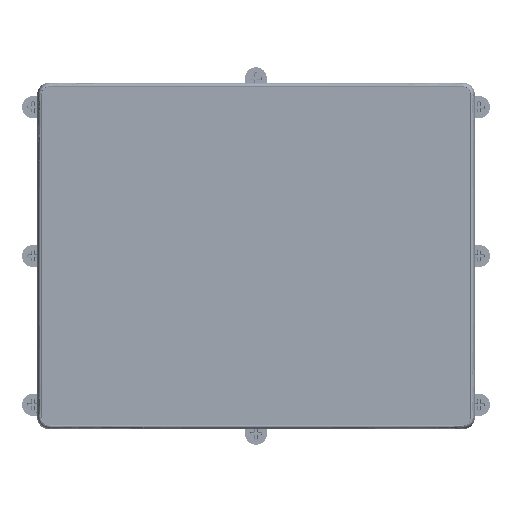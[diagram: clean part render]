
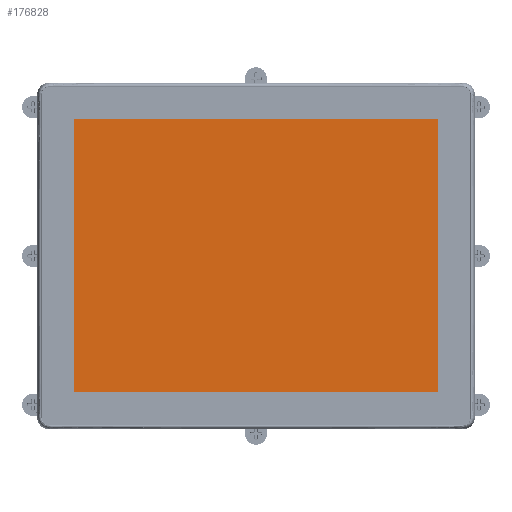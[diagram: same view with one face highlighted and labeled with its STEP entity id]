
A CAD part, top view. The second image highlights one B-rep face of the part: STEP entity #176828.
In plain terms, the highlighted planar face has unit normal (0, 0, 1).
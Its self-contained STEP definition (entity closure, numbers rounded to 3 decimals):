
#55858=DIRECTION('',(0.,-1.,0.));
#55859=VECTOR('',#55858,185.32);
#55860=CARTESIAN_POINT('',(-123.38,92.66,4.79));
#55861=LINE('',#55860,#55859);
#55878=DIRECTION('',(-1.,0.,0.));
#55879=VECTOR('',#55878,246.76);
#55880=CARTESIAN_POINT('',(123.38,92.66,4.79));
#55881=LINE('',#55880,#55879);
#55886=DIRECTION('',(0.,1.,0.));
#55887=VECTOR('',#55886,185.32);
#55888=CARTESIAN_POINT('',(123.38,-92.66,4.79));
#55889=LINE('',#55888,#55887);
#55898=DIRECTION('',(1.,0.,0.));
#55899=VECTOR('',#55898,246.76);
#55900=CARTESIAN_POINT('',(-123.38,-92.66,4.79));
#55901=LINE('',#55900,#55899);
#58549=CARTESIAN_POINT('',(-123.38,92.66,4.79));
#58551=VERTEX_POINT('',#58549);
#58554=CARTESIAN_POINT('',(-123.38,-92.66,4.79));
#58556=VERTEX_POINT('',#58554);
#58558=CARTESIAN_POINT('',(123.38,-92.66,4.79));
#58560=VERTEX_POINT('',#58558);
#58562=CARTESIAN_POINT('',(123.38,92.66,4.79));
#58564=VERTEX_POINT('',#58562);
#176817=CARTESIAN_POINT('',(0.,0.,4.79));
#176818=DIRECTION('',(0.,0.,1.));
#176819=DIRECTION('',(1.,0.,0.));
#176820=AXIS2_PLACEMENT_3D('',#176817,#176818,#176819);
#176821=PLANE('',#176820);
#176822=ORIENTED_EDGE('',*,*,#176740,.F.);
#176823=ORIENTED_EDGE('',*,*,#176764,.F.);
#176824=ORIENTED_EDGE('',*,*,#176783,.F.);
#176825=ORIENTED_EDGE('',*,*,#176803,.F.);
#176826=EDGE_LOOP('',(#176822,#176823,#176824,#176825));
#176827=FACE_OUTER_BOUND('',#176826,.F.);
#176828=ADVANCED_FACE('',(#176827),#176821,.T.);
#176740=EDGE_CURVE('',#58551,#58556,#55861,.T.);
#176764=EDGE_CURVE('',#58564,#58551,#55881,.T.);
#176783=EDGE_CURVE('',#58560,#58564,#55889,.T.);
#176803=EDGE_CURVE('',#58556,#58560,#55901,.T.);
